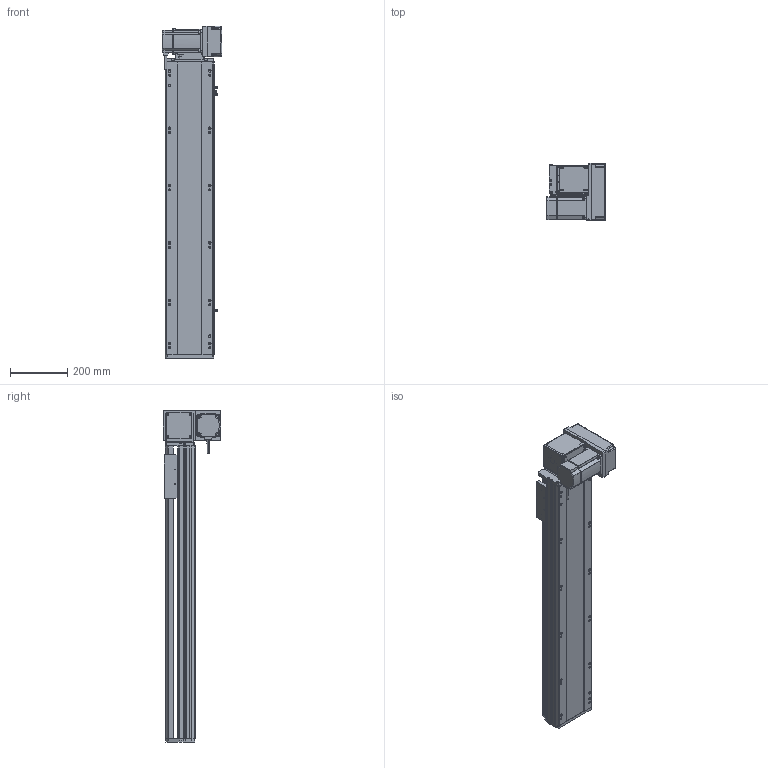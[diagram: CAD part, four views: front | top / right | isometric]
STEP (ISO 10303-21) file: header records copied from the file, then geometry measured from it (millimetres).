
FILE_DESCRIPTION (( 'STEP AP214' ), '1' );
FILE_NAME ('RTB17S-XX-750-RM-M75-C4.STEP', '2025-12-12T02:03:51', ( '' ), ( '' ), 'SwSTEP 2.0', 'SolidWorks 2018', '' );
FILE_SCHEMA (( 'AUTOMOTIVE_DESIGN' ));
Length unit declared in the file: millimetre
Products named in the file (15): RTB22S-GY-005P^RTB17S-RM-々湍釱蚾饜-750W_RTB17S-XX-XX-RM-M75-C4; RTB17S-RM-々湍釱蚾饜-750W^RTB17S-XX-XX-RM-M75-C4; RTB17S-L-007奻裔^RTB17S-XX-XX-RM-M75-C4; RTB17S-L-004-賑釱^RTB17S-賑釱_RTB17S-XX-XX-RM-M75-C4; RTB22S-GY-008-M75--萇儂啣^RTB17S-RM-々湍釱蚾饜-750W_RTB17S-XX-XX-RM-M75-C4; 750W萇儂^RTB17S-XX-XX-RM-M75-C4; RTB17S-L-001-耜醱啣^RTB17S-XX-XX-RM-M75-C4; RTB22S-GY-017P^RTB17S-RM-々湍釱蚾饜-750W_RTB17S-XX-XX-RM-M75-C4; RTB17S-XX-750-RM-M75-C4; RTH13-BL-012覜茼え俋离^RTB17S-賑釱_RTB17S-XX-XX-RM-M75-C4; RTB17S-L-014-T20-P75--々湍釱^RTB17S-RM-々湍釱蚾饜-750W_RTB17S-XX-XX-RM-M75-C4; RTB17S-賑釱^RTB17S-XX-XX-RM-M75-C4; EE672^RTB17S-XX-XX-RM-M75-C4; RTB22S-GY-018P^RTB17S-RM-々湍釱蚾饜-750W_RTB17S-XX-XX-RM-M75-C4; RTB17-R-011菁釱^RTB17S-XX-XX-RM-M75-C4
Assembly tree (17 placements, depth 3):
  RTB17S-XX-750-RM-M75-C4
    RTB17-R-011菁釱^RTB17S-XX-XX-RM-M75-C4
    EE672^RTB17S-XX-XX-RM-M75-C4  x3
    RTB17S-L-001-耜醱啣^RTB17S-XX-XX-RM-M75-C4
    RTB17S-賑釱^RTB17S-XX-XX-RM-M75-C4
      RTB17S-L-004-賑釱^RTB17S-賑釱_RTB17S-XX-XX-RM-M75-C4
      RTH13-BL-012覜茼え俋离^RTB17S-賑釱_RTB17S-XX-XX-RM-M75-C4
    RTB17S-L-007奻裔^RTB17S-XX-XX-RM-M75-C4
    750W萇儂^RTB17S-XX-XX-RM-M75-C4
    RTB17S-RM-々湍釱蚾饜-750W^RTB17S-XX-XX-RM-M75-C4
      RTB17S-L-014-T20-P75--々湍釱^RTB17S-RM-々湍釱蚾饜-750W_RTB17S-XX-XX-RM-M75-C4
      RTB22S-GY-005P^RTB17S-RM-々湍釱蚾饜-750W_RTB17S-XX-XX-RM-M75-C4
      RTB22S-GY-017P^RTB17S-RM-々湍釱蚾饜-750W_RTB17S-XX-XX-RM-M75-C4  x2
      RTB22S-GY-008-M75--萇儂啣^RTB17S-RM-々湍釱蚾饜-750W_RTB17S-XX-XX-RM-M75-C4
      RTB22S-GY-018P^RTB17S-RM-々湍釱蚾饜-750W_RTB17S-XX-XX-RM-M75-C4
Bounding box: 207.4 x 200 x 1157.5 mm (x, y, z)
Volume: 10638349.4 mm3; surface area: 1763836.8 mm2
Topology: 17 solids, 17 shells, 2073 faces, 5728 edges, 3698 vertices
Faces by surface type: plane 968, cylinder 689, bspline 294, cone 110, sphere 8, torus 4
Entity records: 57334 total; most frequent: CARTESIAN_POINT 16792, ORIENTED_EDGE 8300, DIRECTION 7772, EDGE_CURVE 4150, AXIS2_PLACEMENT_3D 2718, VERTEX_POINT 2702, VECTOR 2336, LINE 2336
